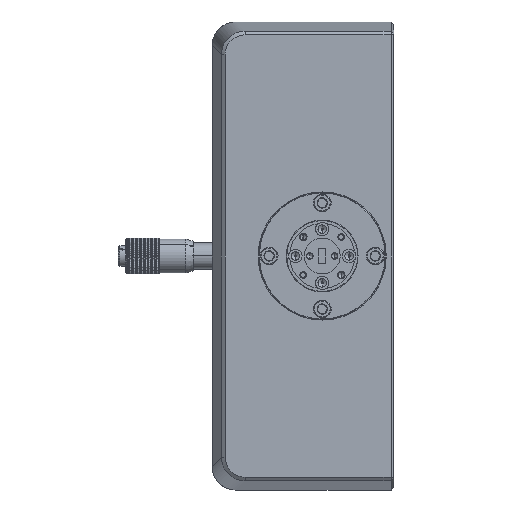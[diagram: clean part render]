
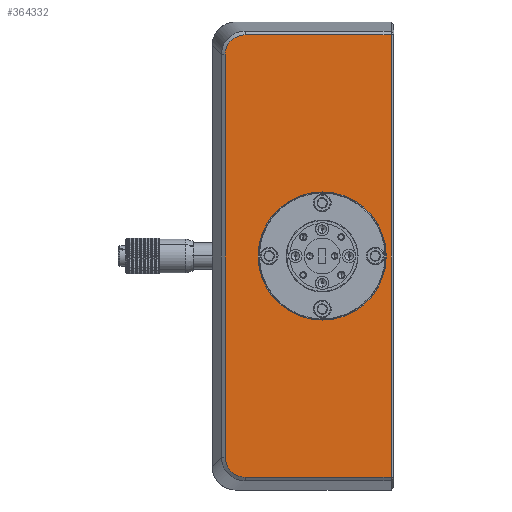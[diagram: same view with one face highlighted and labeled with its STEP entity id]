
A CAD part, left-side view. The second image highlights one B-rep face of the part: STEP entity #364332.
In plain terms, the highlighted planar face has unit normal (-1, 0, 0).
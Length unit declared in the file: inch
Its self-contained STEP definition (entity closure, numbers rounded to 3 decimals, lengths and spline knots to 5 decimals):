
#29609 = ORIENTED_EDGE ( 'NONE', *, *, #602505, .T. ) ;
#48811 = CARTESIAN_POINT ( 'NONE',  ( -3.68787, 0.36253, 1.82949 ) ) ;
#49265 = CARTESIAN_POINT ( 'NONE',  ( -3.68787, 1.35658, -0.36674 ) ) ;
#51549 = CARTESIAN_POINT ( 'NONE',  ( -3.68787, 1.23631, 4.13117 ) ) ;
#52053 = CARTESIAN_POINT ( 'NONE',  ( -3.68787, 1.16869, -0.48284 ) ) ;
#54723 = CARTESIAN_POINT ( 'NONE',  ( -3.68787, 1.22318, 4.13512 ) ) ;
#55635 = CARTESIAN_POINT ( 'NONE',  ( -3.68787, 1.29646, -0.44013 ) ) ;
#64235 = CARTESIAN_POINT ( 'NONE',  ( -3.68787, 1.36698, 4.0005 ) ) ;
#101081 = CARTESIAN_POINT ( 'NONE',  ( -3.68787, 1.22321, -0.47615 ) ) ;
#101884 = EDGE_CURVE ( 'NONE', #334724, #154984, #536477, .T. ) ;
#109688 = CARTESIAN_POINT ( 'NONE',  ( -3.68787, 1.32625, 4.07123 ) ) ;
#110094 = EDGE_CURVE ( 'NONE', #154984, #334724, #496204, .T. ) ;
#110593 = CARTESIAN_POINT ( 'NONE',  ( -3.68787, 1.18246, -0.48284 ) ) ;
#116330 = EDGE_CURVE ( 'NONE', #160853, #162757, #434937, .T. ) ;
#120457 = VERTEX_POINT ( 'NONE', #556309 ) ;
#124993 = DIRECTION ( 'NONE',  ( 0., 0., 1. ) ) ;
#126737 = EDGE_CURVE ( 'NONE', #305601, #160853, #434220, .T. ) ;
#142709 = VECTOR ( 'NONE', #344077, 39.37008 ) ;
#149684 = CARTESIAN_POINT ( 'NONE',  ( -3.68787, 1.35015, -0.37881 ) ) ;
#152878 = CARTESIAN_POINT ( 'NONE',  ( -3.68787, 1.2363, -0.47221 ) ) ;
#154984 = VERTEX_POINT ( 'NONE', #471602 ) ;
#156028 = ORIENTED_EDGE ( 'NONE', *, *, #116330, .T. ) ;
#160853 = VERTEX_POINT ( 'NONE', #399589 ) ;
#162366 = CARTESIAN_POINT ( 'NONE',  ( -3.68787, 1.37761, -0.27392 ) ) ;
#162757 = VERTEX_POINT ( 'NONE', #606549 ) ;
#176724 = EDGE_LOOP ( 'NONE', ( #187356, #405145 ) ) ;
#178662 = AXIS2_PLACEMENT_3D ( 'NONE', #194571, #489560, #252796 ) ;
#187356 = ORIENTED_EDGE ( 'NONE', *, *, #101884, .F. ) ;
#194136 = CARTESIAN_POINT ( 'NONE',  ( -3.68787, -0.35747, -0.48284 ) ) ;
#194571 = CARTESIAN_POINT ( 'NONE',  ( -3.68787, 0.56253, 1.82949 ) ) ;
#197854 = DIRECTION ( 'NONE',  ( 0., 0., 1. ) ) ;
#198318 = CARTESIAN_POINT ( 'NONE',  ( -3.68787, 1.36697, -0.34154 ) ) ;
#200610 = CARTESIAN_POINT ( 'NONE',  ( -3.68787, 1.26151, 4.12079 ) ) ;
#200938 = DIRECTION ( 'NONE',  ( -1., 0., 0. ) ) ;
#201509 = CARTESIAN_POINT ( 'NONE',  ( -3.68787, 1.26152, -0.4618 ) ) ;
#210097 = CARTESIAN_POINT ( 'NONE',  ( -3.68787, 1.1961, 4.14047 ) ) ;
#213436 = LINE ( 'NONE', #216652, #441393 ) ;
#216652 = CARTESIAN_POINT ( 'NONE',  ( -3.68787, 0.56253, 4.14181 ) ) ;
#222253 = LINE ( 'NONE', #419963, #637029 ) ;
#246419 = PLANE ( 'NONE',  #178662 ) ;
#252796 = DIRECTION ( 'NONE',  ( 0., 1., 0. ) ) ;
#253344 = CARTESIAN_POINT ( 'NONE',  ( -3.68787, 1.37626, -0.30133 ) ) ;
#255619 = CARTESIAN_POINT ( 'NONE',  ( -3.68787, 1.27358, 4.11435 ) ) ;
#255947 = CARTESIAN_POINT ( 'NONE',  ( -3.68787, 0.36253, 1.82949 ) ) ;
#294442 = CARTESIAN_POINT ( 'NONE',  ( -3.68787, 1.16869, 4.14181 ) ) ;
#295635 = CARTESIAN_POINT ( 'NONE',  ( -3.68787, 1.37092, -0.32841 ) ) ;
#301127 = CARTESIAN_POINT ( 'NONE',  ( -3.68787, 1.30702, 4.09045 ) ) ;
#305601 = VERTEX_POINT ( 'NONE', #294442 ) ;
#318367 = CARTESIAN_POINT ( 'NONE',  ( -3.68787, 0.56253, -0.48284 ) ) ;
#334724 = VERTEX_POINT ( 'NONE', #586084 ) ;
#339556 = VERTEX_POINT ( 'NONE', #52053 ) ;
#339851 = AXIS2_PLACEMENT_3D ( 'NONE', #255947, #200938, #453647 ) ;
#344077 = DIRECTION ( 'NONE',  ( 0., 0., -1. ) ) ;
#349739 = CARTESIAN_POINT ( 'NONE',  ( -3.68787, 1.29646, 4.0991 ) ) ;
#352373 = EDGE_CURVE ( 'NONE', #162757, #339556, #552356, .T. ) ;
#353812 = CARTESIAN_POINT ( 'NONE',  ( -3.68787, 1.32625, -0.41225 ) ) ;
#356958 = CARTESIAN_POINT ( 'NONE',  ( -3.68787, 1.3349, -0.40169 ) ) ;
#360137 = CARTESIAN_POINT ( 'NONE',  ( -3.68787, 1.16869, -0.48284 ) ) ;
#363738 = DIRECTION ( 'NONE',  ( 0., -1., 0. ) ) ;
#364332 = ADVANCED_FACE ( 'NONE', ( #550960, #450512 ), #246419, .F. ) ;
#386212 = EDGE_CURVE ( 'NONE', #120457, #305601, #213436, .T. ) ;
#399589 = CARTESIAN_POINT ( 'NONE',  ( -3.68787, 1.37761, 3.93289 ) ) ;
#402430 = CARTESIAN_POINT ( 'NONE',  ( -3.68787, 1.19612, -0.4815 ) ) ;
#405145 = ORIENTED_EDGE ( 'NONE', *, *, #110094, .F. ) ;
#408750 = CARTESIAN_POINT ( 'NONE',  ( -3.68787, 1.27358, -0.45538 ) ) ;
#413744 = ORIENTED_EDGE ( 'NONE', *, *, #386212, .T. ) ;
#416297 = ORIENTED_EDGE ( 'NONE', *, *, #612563, .T. ) ;
#418389 = VERTEX_POINT ( 'NONE', #194136 ) ;
#419963 = CARTESIAN_POINT ( 'NONE',  ( -3.68787, -0.35747, 1.82949 ) ) ;
#434220 = B_SPLINE_CURVE_WITH_KNOTS ( 'NONE', 3,
 ( #537856, #508299, #210097, #54723, #51549, #200610, #255619, #349739, #301127, #109688, #592893, #547440, #446967, #64235, #550602, #443790, #453316, #456466 ),
 .UNSPECIFIED., .F., .F.,
 ( 4, 2, 2, 2, 2, 2, 2, 2, 4 ),
 ( 0., 0.125, 0.25, 0.375, 0.5, 0.625, 0.75, 0.875, 1. ),
 .UNSPECIFIED. ) ;
#434937 = LINE ( 'NONE', #584052, #142709 ) ;
#441393 = VECTOR ( 'NONE', #569888, 39.37008 ) ;
#443790 = CARTESIAN_POINT ( 'NONE',  ( -3.68787, 1.37627, 3.96032 ) ) ;
#444242 = DIRECTION ( 'NONE',  ( -1., 0., 0. ) ) ;
#446967 = CARTESIAN_POINT ( 'NONE',  ( -3.68787, 1.35657, 4.02573 ) ) ;
#450512 = FACE_OUTER_BOUND ( 'NONE', #549136, .T. ) ;
#453316 = CARTESIAN_POINT ( 'NONE',  ( -3.68787, 1.37761, 3.94666 ) ) ;
#453647 = DIRECTION ( 'NONE',  ( 0., 0., 1. ) ) ;
#456466 = CARTESIAN_POINT ( 'NONE',  ( -3.68787, 1.37761, 3.93289 ) ) ;
#461645 = ORIENTED_EDGE ( 'NONE', *, *, #352373, .T. ) ;
#471602 = CARTESIAN_POINT ( 'NONE',  ( -3.68787, 0.36253, 1.15949 ) ) ;
#479742 = VECTOR ( 'NONE', #363738, 39.37008 ) ;
#489560 = DIRECTION ( 'NONE',  ( 1., 0., 0. ) ) ;
#496204 = CIRCLE ( 'NONE', #609996, 0.67 ) ;
#496317 = ORIENTED_EDGE ( 'NONE', *, *, #126737, .T. ) ;
#508299 = CARTESIAN_POINT ( 'NONE',  ( -3.68787, 1.18242, 4.14181 ) ) ;
#536477 = CIRCLE ( 'NONE', #339851, 0.67 ) ;
#537856 = CARTESIAN_POINT ( 'NONE',  ( -3.68787, 1.16869, 4.14181 ) ) ;
#547440 = CARTESIAN_POINT ( 'NONE',  ( -3.68787, 1.35015, 4.03778 ) ) ;
#549136 = EDGE_LOOP ( 'NONE', ( #461645, #29609, #416297, #413744, #496317, #156028 ) ) ;
#550602 = CARTESIAN_POINT ( 'NONE',  ( -3.68787, 1.37092, 3.98742 ) ) ;
#550960 = FACE_BOUND ( 'NONE', #176724, .T. ) ;
#552356 = B_SPLINE_CURVE_WITH_KNOTS ( 'NONE', 3,
 ( #162366, #593803, #253344, #295635, #198318, #49265, #149684, #356958, #353812, #554669, #55635, #408750, #201509, #152878, #101081, #402430, #110593, #360137 ),
 .UNSPECIFIED., .F., .F.,
 ( 4, 2, 2, 2, 2, 2, 2, 2, 4 ),
 ( 0., 0.125, 0.25, 0.375, 0.5, 0.625, 0.75, 0.875, 1. ),
 .UNSPECIFIED. ) ;
#554669 = CARTESIAN_POINT ( 'NONE',  ( -3.68787, 1.30703, -0.43148 ) ) ;
#556309 = CARTESIAN_POINT ( 'NONE',  ( -3.68787, -0.35747, 4.14181 ) ) ;
#569888 = DIRECTION ( 'NONE',  ( 0., 1., 0. ) ) ;
#584052 = CARTESIAN_POINT ( 'NONE',  ( -3.68787, 1.37761, 1.82949 ) ) ;
#586084 = CARTESIAN_POINT ( 'NONE',  ( -3.68787, 0.36253, 2.49949 ) ) ;
#592893 = CARTESIAN_POINT ( 'NONE',  ( -3.68787, 1.3349, 4.06066 ) ) ;
#593803 = CARTESIAN_POINT ( 'NONE',  ( -3.68787, 1.37761, -0.28765 ) ) ;
#602505 = EDGE_CURVE ( 'NONE', #339556, #418389, #613311, .T. ) ;
#606549 = CARTESIAN_POINT ( 'NONE',  ( -3.68787, 1.37761, -0.27392 ) ) ;
#609996 = AXIS2_PLACEMENT_3D ( 'NONE', #48811, #444242, #197854 ) ;
#612563 = EDGE_CURVE ( 'NONE', #418389, #120457, #222253, .T. ) ;
#613311 = LINE ( 'NONE', #318367, #479742 ) ;
#637029 = VECTOR ( 'NONE', #124993, 39.37008 ) ;
